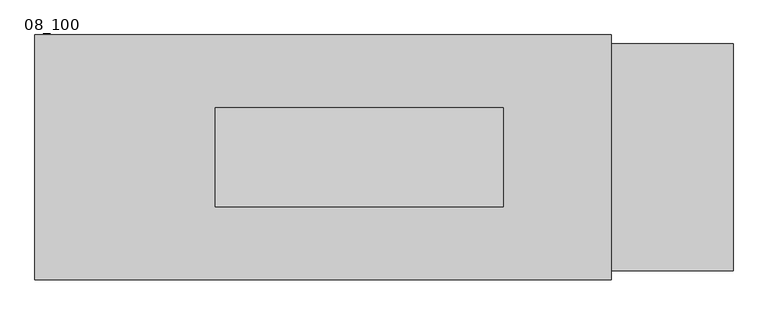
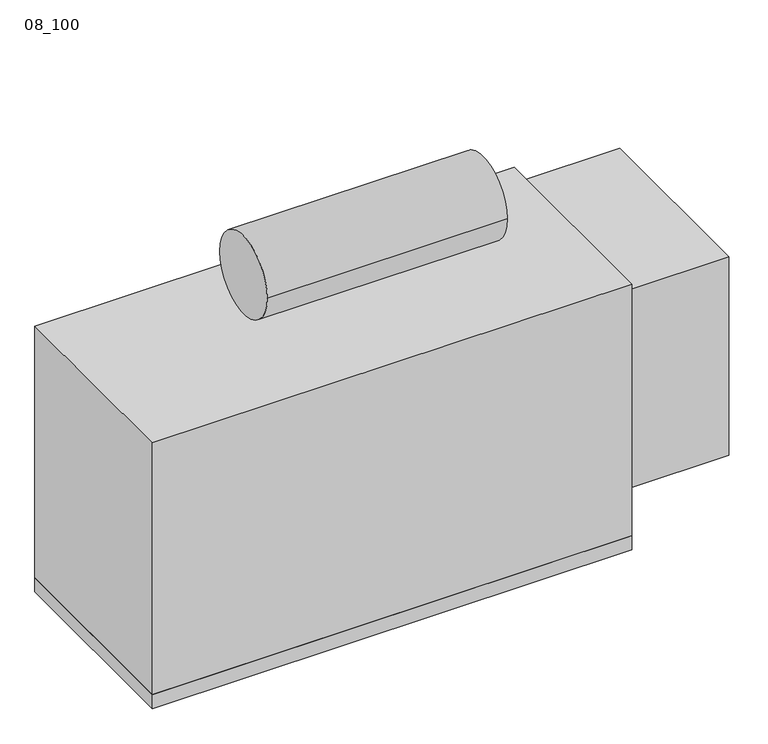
"""IFC4 building model written with IfcOpenShell, lengths in millimetres: proxy geometry, 50100_発電機設備_自家発電_ディーゼル_P_屋外形 : 08_100."""

from ifc_helpers import new_model, si_unit, point, frame, frame_2d, origin, place, context, project, spatial, polyline, circle_curve, trimmed, segment, composite_curve, outline, extrude, source, transform, mapped, element, save


def proxy_08_100_e228f26e(model_context):
    return source(origin(), model_context, "Body", "SweptSolid", [
        extrude(outline(composite_curve([segment(trimmed(circle_curve(frame_2d((0.0, 2600.0)), 275.0), [point((-275.0, 2600.0))], [point((275.0, 2600.0))], False, "CARTESIAN"), True, "CONTINUOUS"), segment(trimmed(circle_curve(frame_2d((0.0, 2600.0)), 275.0), [point((275.0, 2600.0))], [point((-275.0, 2600.0))], False, "CARTESIAN"), True, "CONTINUOUS")], self_intersect=False)), frame((-600.0, 0.0, 0.0), z_axis=(1.0, 0.0, 0.0), x_axis=(0.0, 1.0, 0.0)), (0.0, 0.0, 1.0), 1600.0),
        extrude(outline(polyline([(1600.0, -679.0), (-1600.0, -679.0), (-1600.0, 679.0), (1600.0, 679.0), (1600.0, -679.0)])), frame((0.0, 0.0, 300.0), z_axis=(0.0, 0.0, 1.0), x_axis=(1.0, 0.0, 0.0)), (0.0, 0.0, 1.0), 100.0),
        extrude(outline(polyline([(1600.0, -679.0), (-1600.0, -679.0), (-1600.0, 679.0), (1600.0, 679.0), (1600.0, -679.0)])), frame((0.0, 0.0, 400.0), z_axis=(0.0, 0.0, 1.0), x_axis=(1.0, 0.0, 0.0)), (0.0, 0.0, 1.0), 1775.0),
        extrude(outline(polyline([(2275.0, -629.0), (1600.0, -629.0), (1600.0, 629.0), (2275.0, 629.0), (2275.0, -629.0)])), frame((0.0, 0.0, 700.0), z_axis=(0.0, 0.0, 1.0), x_axis=(1.0, 0.0, 0.0)), (0.0, 0.0, 1.0), 1403.0),
    ])


if __name__ == "__main__":
    model = new_model("IFC4")
    model_context = context("Model", 3, world=origin())
    ifc_project = project(units=[si_unit("LENGTHUNIT", "METRE", prefix="MILLI")], contexts=[model_context])
    site = spatial("IfcSite", under=ifc_project)
    building = spatial("IfcBuilding", under=site)
    placement = place(None, origin())
    proxy_08_100_shape = proxy_08_100_e228f26e(model_context)
    element("IfcBuildingElementProxy", 1, Name="50100_発電機設備_自家発電_ディーゼル_P_屋外形 : 08_100", ObjectType="50100_発電機設備_自家発電_ディーゼル_P_屋外形 : 08_100", at=placement, inside=building, context=model_context, shape_type="MappedRepresentation", body=[
        mapped(proxy_08_100_shape, transform((0.0, 0.0, 0.0), x_axis=(1.0, 0.0, 0.0), y_axis=(0.0, 1.0, 0.0), z_axis=(0.0, 0.0, 1.0))),
    ])
    save(model, "model.ifc")
